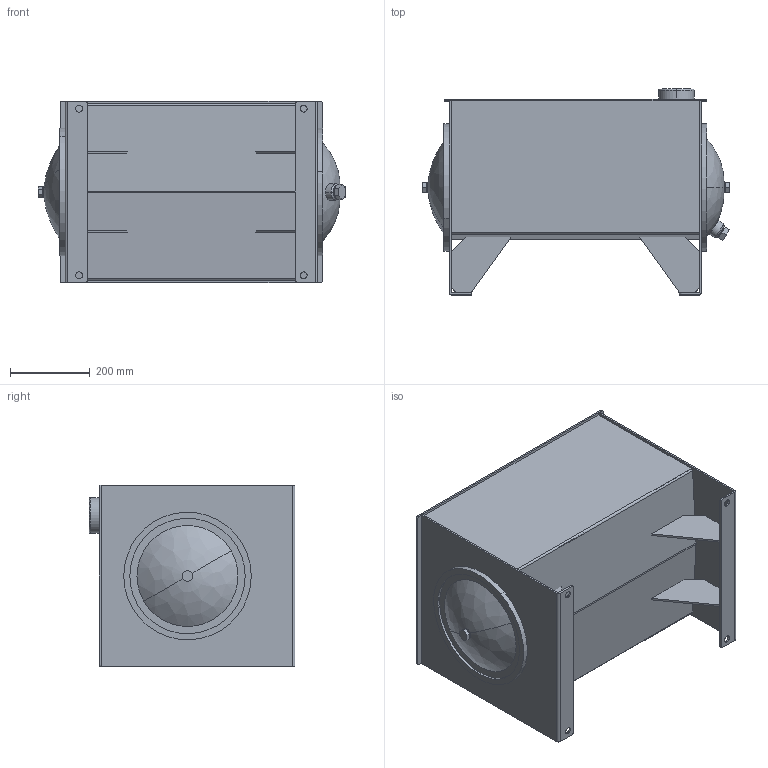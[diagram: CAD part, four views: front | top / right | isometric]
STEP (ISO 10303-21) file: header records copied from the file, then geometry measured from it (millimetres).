
FILE_DESCRIPTION (( 'STEP AP214' ), '1' );
FILE_NAME ('T1-15.STEP', '2019-05-21T11:44:39', ( '' ), ( '' ), 'SwSTEP 2.0', 'SolidWorks 2013', '' );
FILE_SCHEMA (( 'AUTOMOTIVE_DESIGN' ));
Length unit declared in the file: inch
Products named in the file (17): T1-15-BDY; T1-15-EB; T1-15-EA; T1-15-LD; T1-15; TL-EC-12; 12.00 END COVER; TL-ECD-12; DRAIN; 12.00 END COVER WITH DRAIN; CRUSH WASHER; 12.00 GASKET; 0.625 - 11 BAFFLE NUT; 0.625 - 11 HEX BOLT; FILLER RISER; T1-15-GST; T1-15-BFL
Assembly tree (23 placements, depth 3):
  T1-15
    T1-15-LD
    T1-15-EA
    T1-15-EB
    T1-15-BDY
    T1-15-BFL
    T1-15-GST  x4
    FILLER RISER
    TL-ECD-12
      0.625 - 11 HEX BOLT
      0.625 - 11 BAFFLE NUT
      12.00 GASKET
      CRUSH WASHER
      12.00 END COVER WITH DRAIN
      DRAIN
    TL-EC-12
      12.00 END COVER
      12.00 GASKET
      CRUSH WASHER
      0.625 - 11 HEX BOLT
      0.625 - 11 BAFFLE NUT
Bounding box: 772.65 x 517.52 x 457.2 mm (x, y, z)
Volume: 7778315.3 mm3; surface area: 3855185.2 mm2
Topology: 22 solids, 22 shells, 293 faces, 672 edges, 432 vertices
Faces by surface type: plane 166, cylinder 109, bspline 8, cone 8, torus 2
Entity records: 8489 total; most frequent: CARTESIAN_POINT 1438, DIRECTION 1234, ORIENTED_EDGE 1068, EDGE_CURVE 534, AXIS2_PLACEMENT_3D 462, VERTEX_POINT 340, VECTOR 310, LINE 310
